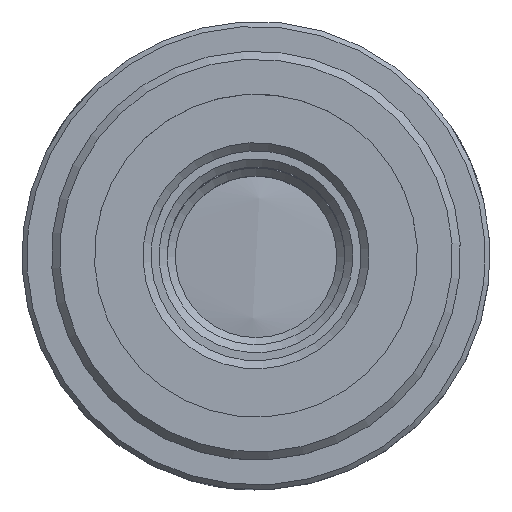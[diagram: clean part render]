
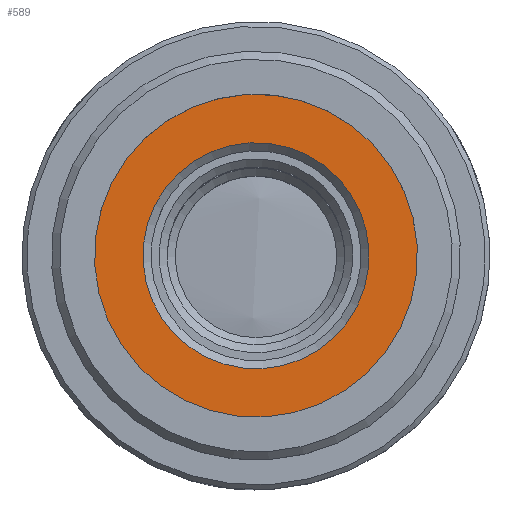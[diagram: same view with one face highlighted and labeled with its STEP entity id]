
A CAD part, top view. The second image highlights one B-rep face of the part: STEP entity #589.
In plain terms, the highlighted planar face has unit normal (0, 0, 1).
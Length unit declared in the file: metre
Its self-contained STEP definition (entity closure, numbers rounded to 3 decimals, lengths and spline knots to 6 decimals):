
#589=ADVANCED_FACE('0:13354',(#1452,#1453),#1454,.F.);
#1031=EDGE_CURVE('0:2191',#2088,#2088,#2089,.T.);
#1033=EDGE_CURVE('0:2185',#2091,#2091,#2092,.T.);
#1452=FACE_BOUND('',#2571,.T.);
#1453=FACE_OUTER_BOUND('',#2572,.T.);
#1454=PLANE('',#2573);
#2088=VERTEX_POINT('',#3774);
#2089=CIRCLE('',#3775,0.007);
#2091=VERTEX_POINT('',#3778);
#2092=CIRCLE('',#3779,0.01);
#2571=EDGE_LOOP('',(#4591));
#2572=EDGE_LOOP('',(#4592));
#2573=AXIS2_PLACEMENT_3D('',#4593,#4594,#4595);
#3774=CARTESIAN_POINT('',(-0.009191,0.002399,0.05119));
#3775=AXIS2_PLACEMENT_3D('',#5068,#5069,#5070);
#3778=CARTESIAN_POINT('',(-0.012172,0.002736,0.05119));
#3779=AXIS2_PLACEMENT_3D('',#5071,#5072,#5073);
#4591=ORIENTED_EDGE('',*,*,#1031,.F.);
#4592=ORIENTED_EDGE('',*,*,#1033,.F.);
#4593=CARTESIAN_POINT('',(-0.001114,0.011551,0.05119));
#4594=DIRECTION('',(0.,0.0,-1.0));
#4595=DIRECTION('',(0.0,-1.0,0.0));
#5068=CARTESIAN_POINT('',(-0.002235,0.001614,0.05119));
#5069=DIRECTION('',(0.,0.,1.0));
#5070=DIRECTION('',(-0.994,0.112,0.));
#5071=CARTESIAN_POINT('',(-0.002235,0.001614,0.05119));
#5072=DIRECTION('',(0.,0.,-1.0));
#5073=DIRECTION('',(-0.994,0.112,0.));
